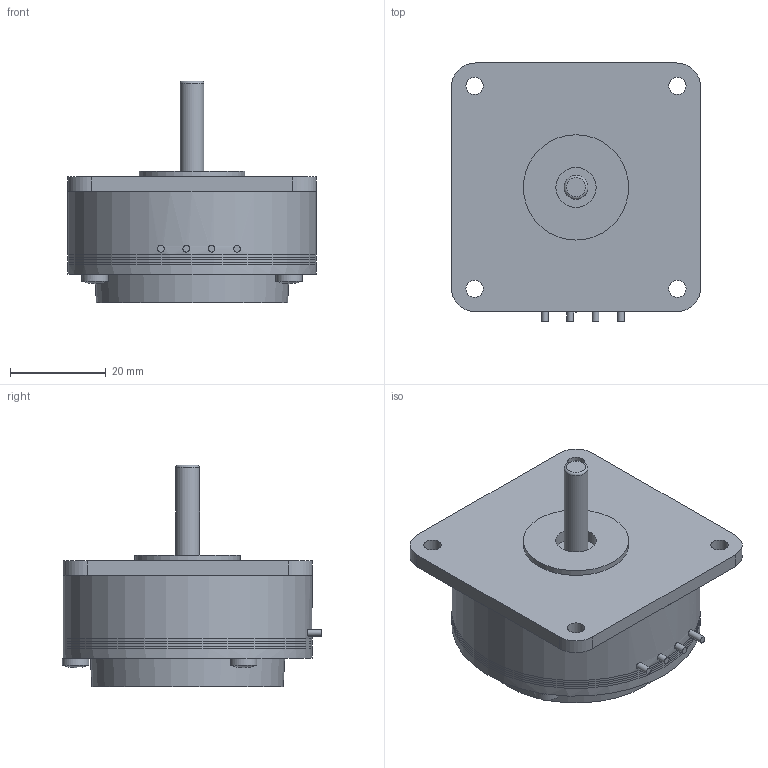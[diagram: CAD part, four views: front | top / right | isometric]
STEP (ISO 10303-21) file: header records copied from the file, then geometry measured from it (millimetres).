
FILE_DESCRIPTION(/* description */ (''),/* implementation_level */ '2;1');
FILE_NAME(/* name */ '5220.0H001.stp',/* time_stamp */ '2019-01-18T17:34:57+01:00',/* author */ ('DR. FRITZ FAULHABER GmbH & Co. KG'),/* organization */ ('DR. FRITZ FAULHABER GmbH & Co. KG'),/* preprocessor_version */ 'ST-DEVELOPER v16.7',/* originating_system */ 'SIEMENS PLM Software NX 12.0',/* authorisation */ '');
FILE_SCHEMA (('AUTOMOTIVE_DESIGN { 1 0 10303 214 3 1 1 1 }'));
Length unit declared in the file: millimetre
Products named in the file (1): 5220.0H001
Bounding box: 52 x 54.15 x 46.3 mm (x, y, z)
Volume: 53057.8 mm3; surface area: 10303.9 mm2
Topology: 1 solids, 1 shells, 70 faces, 148 edges, 97 vertices
Faces by surface type: plane 33, cylinder 31, sphere 3, torus 2, cone 1
Full cylindrical faces by diameter (mm): 1.4 x4, 3.6 x4, 5 x2, 5.5 x3, 8 x1, 8.4 x1, 22 x1, 52 x11
Entity records: 1872 total; most frequent: CARTESIAN_POINT 477, DIRECTION 308, ORIENTED_EDGE 194, AXIS2_PLACEMENT_3D 144, EDGE_LOOP 128, FACE_BOUND 108, EDGE_CURVE 97, VERTEX_POINT 79
